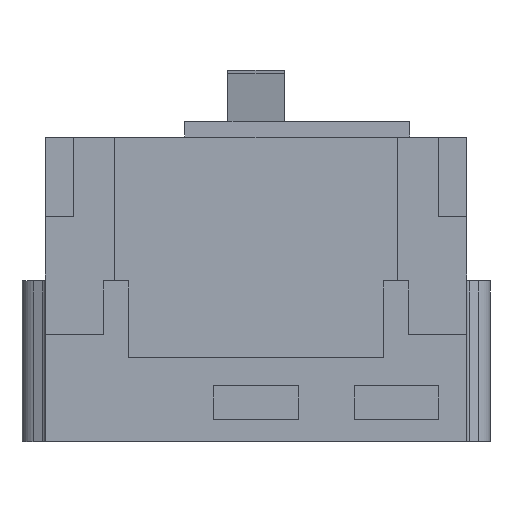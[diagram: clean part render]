
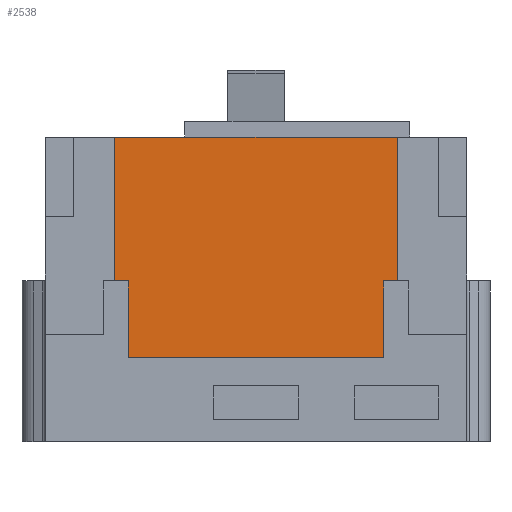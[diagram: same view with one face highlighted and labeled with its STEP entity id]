
A CAD part, front view. The second image highlights one B-rep face of the part: STEP entity #2538.
In plain terms, the highlighted planar face has unit normal (0, -1, 0).
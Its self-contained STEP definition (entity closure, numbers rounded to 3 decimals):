
#28 = CARTESIAN_POINT ( 'NONE',  ( -37., 48.3, 162.85 ) ) ;
#77 = ORIENTED_EDGE ( 'NONE', *, *, #481, .T. ) ;
#186 = VECTOR ( 'NONE', #2215, 1000. ) ;
#321 = DIRECTION ( 'NONE',  ( 0., 0., -1. ) ) ;
#367 = VECTOR ( 'NONE', #2891, 1000. ) ;
#456 = DIRECTION ( 'NONE',  ( 1., 0., 0. ) ) ;
#481 = EDGE_CURVE ( 'NONE', #4177, #4057, #3723, .T. ) ;
#532 = CARTESIAN_POINT ( 'NONE',  ( -188., 48.3, 45. ) ) ;
#558 = EDGE_CURVE ( 'NONE', #2778, #1772, #2732, .T. ) ;
#670 = AXIS2_PLACEMENT_3D ( 'NONE', #3166, #2800, #3962 ) ;
#680 = CARTESIAN_POINT ( 'NONE',  ( -180.8, 48.3, 136.071 ) ) ;
#712 = VERTEX_POINT ( 'NONE', #3432 ) ;
#720 = CARTESIAN_POINT ( 'NONE',  ( -44.2, 48.3, 136.071 ) ) ;
#754 = VECTOR ( 'NONE', #3636, 1000. ) ;
#780 = PLANE ( 'NONE',  #670 ) ;
#941 = VECTOR ( 'NONE', #4485, 1000. ) ;
#945 = CARTESIAN_POINT ( 'NONE',  ( -225., 48.3, 162.85 ) ) ;
#1005 = VERTEX_POINT ( 'NONE', #3851 ) ;
#1300 = LINE ( 'NONE', #4631, #367 ) ;
#1312 = EDGE_CURVE ( 'NONE', #4057, #3318, #3378, .T. ) ;
#1319 = EDGE_CURVE ( 'NONE', #1005, #2823, #1300, .T. ) ;
#1350 = CARTESIAN_POINT ( 'NONE',  ( -37., 48.3, 86. ) ) ;
#1372 = LINE ( 'NONE', #945, #941 ) ;
#1425 = VECTOR ( 'NONE', #4481, 1000. ) ;
#1480 = ORIENTED_EDGE ( 'NONE', *, *, #2758, .T. ) ;
#1559 = CARTESIAN_POINT ( 'NONE',  ( -37., 48.3, 171.375 ) ) ;
#1587 = EDGE_CURVE ( 'NONE', #2823, #2778, #2961, .T. ) ;
#1772 = VERTEX_POINT ( 'NONE', #4536 ) ;
#1910 = EDGE_CURVE ( 'NONE', #4177, #712, #2594, .T. ) ;
#2136 = ORIENTED_EDGE ( 'NONE', *, *, #1910, .F. ) ;
#2162 = LINE ( 'NONE', #532, #3698 ) ;
#2215 = DIRECTION ( 'NONE',  ( 1., 0., 0. ) ) ;
#2505 = DIRECTION ( 'NONE',  ( 1., 0., 0. ) ) ;
#2538 = ADVANCED_FACE ( 'NONE', ( #4577 ), #780, .T. ) ;
#2594 = LINE ( 'NONE', #720, #3650 ) ;
#2606 = CARTESIAN_POINT ( 'NONE',  ( 0., 48.3, 86. ) ) ;
#2660 = CARTESIAN_POINT ( 'NONE',  ( -44.2, 48.3, 86. ) ) ;
#2679 = ORIENTED_EDGE ( 'NONE', *, *, #1312, .T. ) ;
#2732 = LINE ( 'NONE', #680, #754 ) ;
#2758 = EDGE_CURVE ( 'NONE', #1772, #712, #2162, .T. ) ;
#2778 = VERTEX_POINT ( 'NONE', #4542 ) ;
#2800 = DIRECTION ( 'NONE',  ( 0., -1., 0. ) ) ;
#2823 = VERTEX_POINT ( 'NONE', #4625 ) ;
#2891 = DIRECTION ( 'NONE',  ( 0., 0., -1. ) ) ;
#2961 = LINE ( 'NONE', #2606, #186 ) ;
#2984 = ORIENTED_EDGE ( 'NONE', *, *, #1319, .T. ) ;
#3166 = CARTESIAN_POINT ( 'NONE',  ( 0., 48.3, 0. ) ) ;
#3242 = CARTESIAN_POINT ( 'NONE',  ( -44.2, 48.3, 86. ) ) ;
#3262 = EDGE_LOOP ( 'NONE', ( #1480, #2136, #77, #2679, #4431, #2984, #4894, #4668 ) ) ;
#3318 = VERTEX_POINT ( 'NONE', #28 ) ;
#3378 = LINE ( 'NONE', #1559, #1425 ) ;
#3395 = VECTOR ( 'NONE', #456, 1000. ) ;
#3432 = CARTESIAN_POINT ( 'NONE',  ( -44.2, 48.3, 45. ) ) ;
#3636 = DIRECTION ( 'NONE',  ( 0., 0., -1. ) ) ;
#3650 = VECTOR ( 'NONE', #321, 1000. ) ;
#3698 = VECTOR ( 'NONE', #2505, 1000. ) ;
#3723 = LINE ( 'NONE', #2660, #3395 ) ;
#3851 = CARTESIAN_POINT ( 'NONE',  ( -188., 48.3, 162.85 ) ) ;
#3962 = DIRECTION ( 'NONE',  ( 0., 0., -1. ) ) ;
#4057 = VERTEX_POINT ( 'NONE', #1350 ) ;
#4086 = EDGE_CURVE ( 'NONE', #1005, #3318, #1372, .T. ) ;
#4177 = VERTEX_POINT ( 'NONE', #3242 ) ;
#4431 = ORIENTED_EDGE ( 'NONE', *, *, #4086, .F. ) ;
#4481 = DIRECTION ( 'NONE',  ( 0., 0., 1. ) ) ;
#4485 = DIRECTION ( 'NONE',  ( 1., 0., 0. ) ) ;
#4536 = CARTESIAN_POINT ( 'NONE',  ( -180.8, 48.3, 45. ) ) ;
#4542 = CARTESIAN_POINT ( 'NONE',  ( -180.8, 48.3, 86. ) ) ;
#4577 = FACE_OUTER_BOUND ( 'NONE', #3262, .T. ) ;
#4625 = CARTESIAN_POINT ( 'NONE',  ( -188., 48.3, 86. ) ) ;
#4631 = CARTESIAN_POINT ( 'NONE',  ( -188., 48.3, 171.375 ) ) ;
#4668 = ORIENTED_EDGE ( 'NONE', *, *, #558, .T. ) ;
#4894 = ORIENTED_EDGE ( 'NONE', *, *, #1587, .T. ) ;
